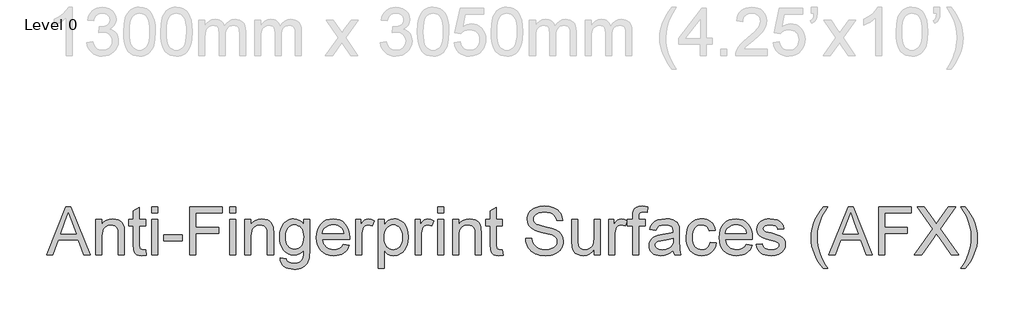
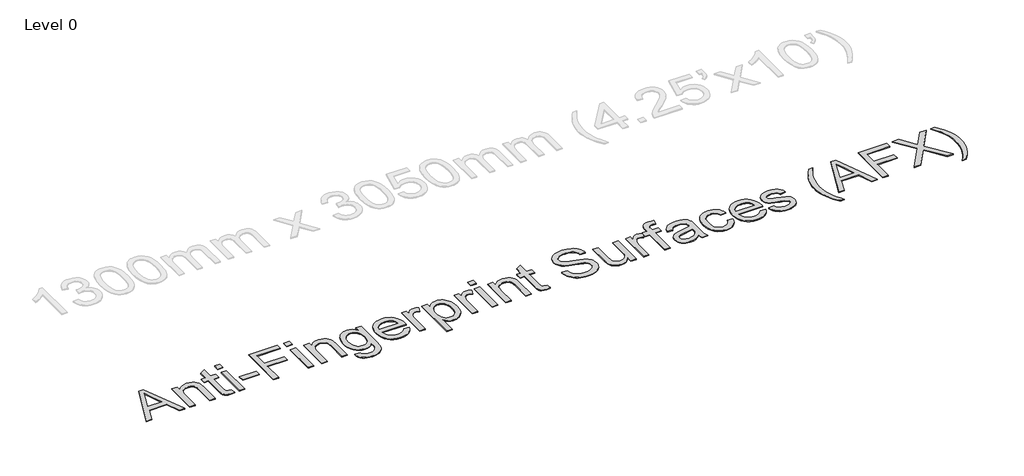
# One storey, part 4 of 10: 1 proxy.
"""IFC4 building model written with IfcOpenShell, lengths in millimetres."""

import ifcopenshell
import ifcopenshell.guid

model = None  # the IFC model being written
_history = None  # IfcOwnerHistory: only IFC2X3 demands one
_inside = {}  # id of a spatial element -> (the spatial element, [elements in it])
_under = {}  # id of a project, library or spatial element -> (it, [spatial elements below it])
_declared = {}  # id of a project -> (the project, [libraries it declares])
_typed = {}  # id of a type object -> (the type object, [elements of that type])
_made_of = {}  # id of a material, layer set ... -> (it, [elements and type objects made of it])


def new_model(schema):
    """Start an empty IFC model of exactly this schema.

    Asked for "IFC4X3", IfcOpenShell would pick the latest addendum, in which some entities
    have other attributes; the version numbers below select the first issue.
    IFC2X3 requires an IfcOwnerHistory on every rooted entity: one is made here for all.
    """
    global model, _history
    if schema == "IFC4X3":
        model = ifcopenshell.file(schema_version=(4, 3, 0, 0))
    else:
        model = ifcopenshell.file(schema=schema)
    _inside.clear()
    _under.clear()
    _declared.clear()
    _typed.clear()
    _made_of.clear()
    _history = None
    if model.schema == "IFC2X3":
        org = make("IfcOrganization", Name="unknown")
        user = make(
            "IfcPersonAndOrganization",
            ThePerson=make("IfcPerson", FamilyName="unknown"),
            TheOrganization=org,
        )
        app = make(
            "IfcApplication",
            ApplicationDeveloper=org,
            Version="unknown",
            ApplicationFullName="unknown",
            ApplicationIdentifier="unknown",
        )
        _history = make(
            "IfcOwnerHistory",
            OwningUser=user,
            OwningApplication=app,
            ChangeAction="ADDED",
            CreationDate=0,
        )
    return model


def make(cls, **values):
    """One entity of the class cls with the attributes given. An attribute that is None is left unset."""
    return model.create_entity(
        cls, **{name: value for name, value in values.items() if value is not None}
    )


def rooted(cls, **values):
    """An entity with a GlobalId (a new one), such as an element, a storey or a relation."""
    return make(cls, GlobalId=ifcopenshell.guid.new(), OwnerHistory=_history, **values)


def si_unit(unit_type, name, prefix=None):
    """IfcSIUnit, for example si_unit("LENGTHUNIT", "METRE", prefix="MILLI")."""
    return make("IfcSIUnit", UnitType=unit_type, Prefix=prefix, Name=name)


def assignment(units):
    """IfcUnitAssignment: the units of a project."""
    return None if units is None else make("IfcUnitAssignment", Units=units)


def point(xyz):
    """IfcCartesianPoint."""
    return None if xyz is None else make("IfcCartesianPoint", Coordinates=xyz)


def direction(xyz):
    """IfcDirection."""
    return None if xyz is None else make("IfcDirection", DirectionRatios=xyz)


def frame(location, z_axis=None, x_axis=None):
    """IfcAxis2Placement3D, a coordinate frame: its origin and axes. An axis left out is left unset."""
    return make(
        "IfcAxis2Placement3D",
        Location=point(location),
        Axis=direction(z_axis),
        RefDirection=direction(x_axis),
    )


def origin():
    """The frame at (0, 0, 0) with its axes left unset."""
    return frame((0.0, 0.0, 0.0))


def origin_with_axes():
    """The frame at (0, 0, 0) with the z axis (0, 0, 1) and the x axis (1, 0, 0) written out."""
    return frame((0.0, 0.0, 0.0), z_axis=(0.0, 0.0, 1.0), x_axis=(1.0, 0.0, 0.0))


def place(relative_to, where):
    """IfcLocalPlacement: puts the frame where relative to a parent placement (None: the world)."""
    return make(
        "IfcLocalPlacement", PlacementRelTo=relative_to, RelativePlacement=where
    )


def context(
    kind, dimensions, precision=None, world=None, true_north=None, identifier=None
):
    """IfcGeometricRepresentationContext, for example the 3D "Model" context."""
    return make(
        "IfcGeometricRepresentationContext",
        ContextIdentifier=identifier,
        ContextType=kind,
        CoordinateSpaceDimension=dimensions,
        Precision=precision,
        WorldCoordinateSystem=world,
        TrueNorth=true_north,
    )


def project(units=None, contexts=None):
    """IfcProject with its units and contexts."""
    return rooted(
        "IfcProject",
        Name="project",
        RepresentationContexts=contexts,
        UnitsInContext=assignment(units),
    )


def spatial(cls, under=None, at=None, **own):
    """A site, building, storey or space (cls), placed at a placement, below another one or the project."""
    s = rooted(cls, ObjectPlacement=at, **own)
    if under is not None:
        _under.setdefault(under.id(), (under, []))[1].append(s)
    return s


def polyline(points):
    """IfcPolyline through the points."""
    return make("IfcPolyline", Points=[point(p) for p in points])


def outline(outer, holes=None, kind="AREA"):
    """IfcArbitraryClosedProfileDef: a profile drawn as a closed curve; with holes, ...WithVoids."""
    if holes is None:
        return make("IfcArbitraryClosedProfileDef", ProfileType=kind, OuterCurve=outer)
    return make(
        "IfcArbitraryProfileDefWithVoids",
        ProfileType=kind,
        OuterCurve=outer,
        InnerCurves=holes,
    )


def extrude(swept, where, along, depth):
    """IfcExtrudedAreaSolid: the profile swept, set in the frame where, extruded along a direction by depth."""
    return make(
        "IfcExtrudedAreaSolid",
        SweptArea=swept,
        Position=where,
        ExtrudedDirection=direction(along),
        Depth=depth,
    )


def shape(context_of_items, identifier, shape_type, items):
    """IfcShapeRepresentation: the items that make up one representation, for example the "Body"."""
    return make(
        "IfcShapeRepresentation",
        ContextOfItems=context_of_items,
        RepresentationIdentifier=identifier,
        RepresentationType=shape_type,
        Items=items,
    )


def made_of(thing, what):
    """Note that an element or type object is made of a material, layer set ...; save() writes the relation."""
    if what is not None:
        _made_of.setdefault(what.id(), (what, []))[1].append(thing)
    return thing


def element(
    cls,
    number,
    at=None,
    inside=None,
    cuts=None,
    type_object=None,
    material=None,
    context=None,
    identifier="Body",
    shape_type=None,
    held_by="IfcProductDefinitionShape",
    body=None,
    shapes=None,
    **own,
):
    """One element of the class cls, such as IfcWall. Its Tag is "e" and its number.

    at: its placement. inside: the storey or other place that contains it. cuts: it is an
    opening in that element (IfcRelVoidsElement). A single representation is given by context,
    identifier, shape_type and body (its items); several are given by shapes. held_by: the class
    of the entity that holds the representations. save() writes the other relations.
    """
    e = rooted(cls, Tag="e%d" % number, ObjectPlacement=at, **own)
    if body is not None:
        shapes = [shape(context, identifier, shape_type, body)]
    if shapes is not None:
        e.Representation = make(held_by, Representations=shapes)
    if inside is not None:
        _inside.setdefault(inside.id(), (inside, []))[1].append(e)
    if cuts is not None:
        rooted(
            "IfcRelVoidsElement", RelatingBuildingElement=cuts, RelatedOpeningElement=e
        )
    if type_object is not None:
        _typed.setdefault(type_object.id(), (type_object, []))[1].append(e)
    return made_of(e, material)


def aggregate(whole, parts):
    """IfcRelAggregates: a whole, such as a stair, and the parts it consists of."""
    return rooted("IfcRelAggregates", RelatingObject=whole, RelatedObjects=parts)


def save(model, path):
    """Write the relations noted so far, then the file.

    IfcRelAggregates (storeys below a building ...), IfcRelContainedInSpatialStructure (elements
    in a storey), IfcRelDefinesByType, IfcRelAssociatesMaterial and IfcRelDeclares: one each for
    every whole, place, type object, material and project.
    """
    for whole, parts in _under.values():
        aggregate(whole, parts)
    for where, things in _inside.values():
        rooted(
            "IfcRelContainedInSpatialStructure",
            RelatedElements=things,
            RelatingStructure=where,
        )
    for kind, things in _typed.values():
        rooted("IfcRelDefinesByType", RelatedObjects=things, RelatingType=kind)
    for what, things in _made_of.values():
        rooted("IfcRelAssociatesMaterial", RelatedObjects=things, RelatingMaterial=what)
    for by, libraries in _declared.values():
        rooted("IfcRelDeclares", RelatingContext=by, RelatedDefinitions=libraries)
    model.write(path)


model = new_model("IFC4")

# Units and contexts
model_context = context("Model", 3, world=origin())
ifc_project = project(units=[si_unit("LENGTHUNIT", "METRE", prefix="MILLI")], contexts=[model_context])

# Site, building, storey
site = spatial("IfcSite", under=ifc_project)
building = spatial("IfcBuilding", under=site)
storey = spatial("IfcBuildingStorey", under=building, Name="Level 0", Elevation=0.0)

# Proxy
placement = place(None, origin())
element("IfcBuildingElementProxy", 1, Name="600mm Arial", ObjectType="600mm Arial", at=placement, inside=storey, context=model_context, shape_type="SweptSolid", body=[
    extrude(outline(polyline([(-10947.6550699, -2239.8720473), (-10707.0602451, -1637.1341864), (-10642.9016251, -1637.1341864), (-10402.3068003, -2239.8720473), (-10481.916464, -2239.8720473), (-10550.9311263, -2051.5164658), (-10799.1778967, -2051.5164658), (-10868.0454062, -2239.8720473), (-10947.6550699, -2239.8720473)]), holes=[polyline([(-10771.5131706, -1976.1742332), (-10578.4486996, -1976.1742332), (-10632.748082, -1827.9913655), (-10674.9809351, -1712.476419), (-10712.5048986, -1815.0419193), (-10771.5131706, -1976.1742332)])]), origin_with_axes(), (0.0, 0.0, 1.0), 10.0),
    extrude(outline(polyline([(-10331.2319988, -2239.8720473), (-10331.2319988, -1797.2364307), (-10255.8897662, -1797.2364307), (-10255.8897662, -1859.0406059), (-10229.7149622, -1827.8810009), (-10198.2794457, -1805.6241402), (-10161.5832167, -1792.2700238), (-10119.6262752, -1787.8186517), (-10082.4885878, -1791.4055011), (-10048.4778973, -1802.1660495), (-10020.1141955, -1818.7575275), (-9999.9174739, -1839.8371658), (-9986.2138696, -1865.3497821), (-9977.3295194, -1895.2401942), (-9973.3563939, -1968.0808293), (-9973.3563939, -2239.8720473), (-10048.6986265, -2239.8720473), (-10048.6986265, -1978.2343724), (-10050.8691303, -1939.2756691), (-10057.3806416, -1911.5741548), (-10069.3919887, -1891.7269212), (-10088.062, -1876.3310597), (-10111.9927238, -1866.4534281), (-10139.7862085, -1863.1608843), (-10162.6638701, -1865.0094913), (-10183.9136538, -1870.5553124), (-10203.5355598, -1879.7983475), (-10221.5295878, -1892.7385967), (-10236.5621659, -1910.8475879), (-10247.2997216, -1935.5968491), (-10253.742255, -1966.9863804), (-10255.8897662, -2005.0161816), (-10255.8897662, -2239.8720473), (-10331.2319988, -2239.8720473)])), origin_with_axes(), (0.0, 0.0, 1.0), 10.0),
    extrude(outline(polyline([(-9709.6585798, -2177.0378026), (-9700.2408007, -2242.0793393), (-9756.6003223, -2249.2898264), (-9792.7631225, -2246.1628294), (-9819.7288727, -2236.7818386), (-9838.7851601, -2222.3240762), (-9851.2195715, -2203.9667646), (-9858.0621766, -2172.4392776), (-9860.343045, -2118.4709889), (-9860.343045, -1872.5786633), (-9916.8497194, -1872.5786633), (-9916.8497194, -1797.2364307), (-9860.343045, -1797.2364307), (-9860.343045, -1689.6677353), (-9785.0008124, -1645.3747431), (-9785.0008124, -1797.2364307), (-9709.6585798, -1797.2364307), (-9709.6585798, -1872.5786633), (-9785.0008124, -1872.5786633), (-9785.0008124, -2116.2636969), (-9781.0276868, -2155.1120356), (-9768.151817, -2168.8708223), (-9757.280904, -2172.6784009), (-9742.4736537, -2173.9475938), (-9709.6585798, -2177.0378026)])), origin_with_axes(), (0.0, 0.0, 1.0), 10.0),
    extrude(outline(polyline([(-9634.3163471, -1712.476419), (-9634.3163471, -1637.1341864), (-9558.9741145, -1637.1341864), (-9558.9741145, -1712.476419), (-9634.3163471, -1712.476419)])), origin_with_axes(), (0.0, 0.0, 1.0), 10.0),
    extrude(outline(polyline([(-9634.3163471, -2239.8720473), (-9634.3163471, -1797.2364307), (-9558.9741145, -1797.2364307), (-9558.9741145, -2239.8720473), (-9634.3163471, -2239.8720473)])), origin_with_axes(), (0.0, 0.0, 1.0), 10.0),
    extrude(outline(polyline([(-9483.6318819, -2060.9342449), (-9483.6318819, -1985.5920123), (-9248.187405, -1985.5920123), (-9248.187405, -2060.9342449), (-9483.6318819, -2060.9342449)])), origin_with_axes(), (0.0, 0.0, 1.0), 10.0),
    extrude(outline(polyline([(-9154.0096142, -2239.8720473), (-9154.0096142, -1637.1341864), (-8749.0451139, -1637.1341864), (-8749.0451139, -1712.476419), (-9078.6673816, -1712.476419), (-9078.6673816, -1891.4142215), (-8796.1340093, -1891.4142215), (-8796.1340093, -1966.7564541), (-9078.6673816, -1966.7564541), (-9078.6673816, -2239.8720473), (-9154.0096142, -2239.8720473)])), origin_with_axes(), (0.0, 0.0, 1.0), 10.0),
    extrude(outline(polyline([(-8654.8673232, -1712.476419), (-8654.8673232, -1637.1341864), (-8579.5250906, -1637.1341864), (-8579.5250906, -1712.476419), (-8654.8673232, -1712.476419)])), origin_with_axes(), (0.0, 0.0, 1.0), 10.0),
    extrude(outline(polyline([(-8654.8673232, -2239.8720473), (-8654.8673232, -1797.2364307), (-8579.5250906, -1797.2364307), (-8579.5250906, -2239.8720473), (-8654.8673232, -2239.8720473)])), origin_with_axes(), (0.0, 0.0, 1.0), 10.0),
    extrude(outline(polyline([(-8466.5117417, -2239.8720473), (-8466.5117417, -1797.2364307), (-8391.169509, -1797.2364307), (-8391.169509, -1859.0406059), (-8364.9947051, -1827.8810009), (-8333.5591886, -1805.6241402), (-8296.8629596, -1792.2700238), (-8254.906018, -1787.8186517), (-8217.7683306, -1791.4055011), (-8183.7576402, -1802.1660495), (-8155.3939383, -1818.7575275), (-8135.1972168, -1839.8371658), (-8121.4936125, -1865.3497821), (-8112.6092623, -1895.2401942), (-8108.6361367, -1968.0808293), (-8108.6361367, -2239.8720473), (-8183.9783694, -2239.8720473), (-8183.9783694, -1978.2343724), (-8186.1488731, -1939.2756691), (-8192.6603844, -1911.5741548), (-8204.6717316, -1891.7269212), (-8223.3417428, -1876.3310597), (-8247.2724666, -1866.4534281), (-8275.0659514, -1863.1608843), (-8297.9436129, -1865.0094913), (-8319.1933967, -1870.5553124), (-8338.8153026, -1879.7983475), (-8356.8093307, -1892.7385967), (-8371.8419087, -1910.8475879), (-8382.5794645, -1935.5968491), (-8389.0219979, -1966.9863804), (-8391.169509, -2005.0161816), (-8391.169509, -2239.8720473), (-8466.5117417, -2239.8720473)])), origin_with_axes(), (0.0, 0.0, 1.0), 10.0),
    extrude(outline(polyline([(-8023.8761251, -2277.5431636), (-7948.5338924, -2286.9609427), (-7940.2197594, -2310.5053904), (-7924.106528, -2326.6921982), (-7892.4318882, -2339.2737624), (-7850.9715873, -2343.4676172), (-7806.7521715, -2338.7219394), (-7788.8915006, -2332.7898423), (-7773.8635211, -2324.4849062), (-7751.0548374, -2301.6762225), (-7737.0753216, -2271.2155933), (-7732.9918315, -2238.8051895), (-7731.9249737, -2183.3653729), (-7756.9961317, -2208.0870429), (-7784.9735574, -2225.7453787), (-7815.8572509, -2236.3403802), (-7849.6472121, -2239.8720473), (-7890.9557617, -2235.760966), (-7927.3254954, -2223.4277221), (-7958.7564134, -2202.8723157), (-7985.2485156, -2174.0947466), (-8006.2683731, -2139.5690213), (-8021.282557, -2101.7691463), (-8030.2910673, -2060.6951216), (-8033.2939041, -2016.3469471), (-8027.9044329, -1955.5176592), (-8011.7360192, -1899.5812018), (-7999.7522632, -1874.3582925), (-7985.3588802, -1852.1796067), (-7968.55587, -1833.0451444), (-7949.3432328, -1816.9549057), (-7928.0290697, -1804.2077945), (-7904.9214819, -1795.1027152), (-7880.0204694, -1789.6396675), (-7853.3260321, -1787.8186517), (-7818.092134, -1791.93893), (-7786.1139916, -1804.299765), (-7757.3916048, -1824.9011568), (-7731.9249737, -1853.7431052), (-7731.9249737, -1797.2364307), (-7656.5827411, -1797.2364307), (-7656.5827411, -2179.3922473), (-7661.733089, -2267.6287439), (-7668.1710239, -2300.4484164), (-7677.1841328, -2325.735705), (-7688.9885463, -2346.1301631), (-7703.8003952, -2364.271344), (-7721.6196793, -2380.1592477), (-7742.4463987, -2393.7938741), (-7766.0690214, -2404.7383635), (-7792.276015, -2412.5558559), (-7821.0673796, -2417.2463513), (-7852.4431153, -2418.8098498), (-7889.355475, -2416.6071563), (-7922.5430295, -2409.999076), (-7952.0057788, -2398.9856088), (-7977.7437229, -2383.5667546), (-7998.5336541, -2363.7241195), (-8013.1523649, -2339.4393093), (-8021.5998552, -2310.712324), (-8023.8761251, -2277.5431636)]), holes=[polyline([(-7957.9516715, -2011.1965991), (-7955.9421161, -2048.4492497), (-7949.9134499, -2080.3032319), (-7939.8656729, -2106.7585459), (-7925.7987851, -2127.8151916), (-7908.6968709, -2143.8778392), (-7889.5440145, -2155.3511589), (-7868.340216, -2162.2351508), (-7845.0854754, -2164.5298147), (-7822.060661, -2162.2489463), (-7800.9580301, -2155.4063412), (-7781.7775826, -2144.0019994), (-7764.5193185, -2128.0359208), (-7750.2592926, -2107.1862087), (-7740.0735599, -2081.1309664), (-7733.9621202, -2049.8701939), (-7731.9249737, -2013.4038911), (-7734.0219011, -1978.4597001), (-7740.3126832, -1948.0864429), (-7750.79732, -1922.2841194), (-7765.4758116, -1901.0527298), (-7783.1065563, -1884.4750474), (-7802.4479522, -1872.6338456), (-7823.4999993, -1865.5291246), (-7846.2626978, -1863.1608843), (-7868.6437187, -1865.4923364), (-7889.2864971, -1872.4866928), (-7908.1910331, -1884.1439536), (-7925.3573267, -1900.4641186), (-7939.6173526, -1921.3736115), (-7949.8030853, -1946.7988559), (-7955.914525, -1976.7398518), (-7957.9516715, -2011.1965991)])]), origin_with_axes(), (0.0, 0.0, 1.0), 10.0),
    extrude(outline(polyline([(-7233.6655994, -2108.0231403), (-7159.7948948, -2117.4409193), (-7171.1210617, -2147.0278288), (-7186.4111571, -2173.1014652), (-7205.6651811, -2195.6618286), (-7228.8831335, -2214.7089189), (-7255.8258911, -2229.8380659), (-7286.2543306, -2240.6445995), (-7320.1684521, -2247.1285197), (-7357.5682554, -2249.2898264), (-7404.3168599, -2245.5604227), (-7445.9702988, -2234.3722115), (-7482.5285721, -2215.7251929), (-7513.9916797, -2189.6193668), (-7539.292764, -2156.7813002), (-7557.364967, -2117.93756), (-7568.2082888, -2073.0881463), (-7571.8227294, -2022.233059), (-7568.1715006, -1969.6535248), (-7557.2178142, -1923.3095905), (-7538.9616702, -1883.201256), (-7513.4030685, -1849.3285212), (-7482.0227344, -1822.4179533), (-7446.3013926, -1803.1961191), (-7406.2390434, -1791.6630185), (-7361.8356865, -1787.8186517), (-7318.862471, -1791.6538215), (-7280.0003367, -1803.1593309), (-7245.2492837, -1822.3351799), (-7214.6093121, -1849.1813685), (-7189.5979349, -1882.9805268), (-7171.7326655, -1923.0152849), (-7161.0135039, -1969.2856428), (-7157.44045, -2021.7916006), (-7157.8819084, -2042.0986867), (-7496.4804968, -2042.0986867), (-7492.1164966, -2072.1638428), (-7483.43908, -2098.4949966), (-7470.4482471, -2121.0921481), (-7453.1439977, -2139.9552974), (-7432.4828252, -2154.8269271), (-7409.4212226, -2165.4495197), (-7383.95919, -2171.8230753), (-7356.0967274, -2173.9475938), (-7315.9975899, -2170.0112564), (-7282.2260228, -2158.2022444), (-7254.7820259, -2137.7847937), (-7233.6655994, -2108.0231403)]), holes=[polyline([(-7496.4804968, -1966.7564541), (-7232.7826826, -1966.7564541), (-7242.9730139, -1926.9516222), (-7251.7378024, -1911.2982433), (-7262.9490062, -1898.4775558), (-7283.4952157, -1883.026512), (-7306.8741165, -1871.9900522), (-7333.0857086, -1865.3681762), (-7362.1299921, -1863.1608843), (-7388.6220943, -1864.9221193), (-7412.9161016, -1870.2058245), (-7435.0120139, -1879.0119997), (-7454.9098313, -1891.3406451), (-7471.6070754, -1906.6215435), (-7484.1012676, -1924.2844778), (-7492.3924081, -1944.329448), (-7496.4804968, -1966.7564541)])]), origin_with_axes(), (0.0, 0.0, 1.0), 10.0),
    extrude(outline(polyline([(-7082.0982174, -2239.8720473), (-7082.0982174, -1797.2364307), (-7016.1737639, -1797.2364307), (-7016.1737639, -1862.7194259), (-6991.8199758, -1824.754004), (-6969.3791741, -1802.3867787), (-6946.864796, -1791.4606834), (-6922.2902787, -1787.8186517), (-6884.7663152, -1793.6311872), (-6846.6537405, -1811.0687938), (-6871.816869, -1878.6119281), (-6898.3043726, -1867.0236452), (-6924.7918763, -1863.1608843), (-6947.2878603, -1866.8764924), (-6967.3926113, -1878.0233169), (-6983.6346014, -1895.755229), (-6994.5423025, -1919.2261003), (-7003.7025642, -1961.3118006), (-7006.7559848, -2007.2234736), (-7006.7559848, -2239.8720473), (-7082.0982174, -2239.8720473)])), origin_with_axes(), (0.0, 0.0, 1.0), 10.0),
    extrude(outline(polyline([(-6799.5648451, -2409.3920707), (-6799.5648451, -1797.2364307), (-6724.2226125, -1797.2364307), (-6724.2226125, -1871.1071354), (-6699.6480952, -1834.6684237), (-6672.130522, -1808.6407726), (-6640.051212, -1793.0241819), (-6601.7914845, -1787.8186517), (-6575.515513, -1789.6396675), (-6550.8398282, -1795.1027152), (-6527.76443, -1804.2077945), (-6506.2893186, -1816.9549057), (-6486.8835433, -1833.0129548), (-6470.0161538, -1852.050848), (-6455.6871501, -1874.0685854), (-6443.8965322, -1899.066167), (-6428.1143946, -1954.5795601), (-6422.853682, -2015.1697247), (-6428.7949763, -2079.6042561), (-6436.221594, -2109.2693405), (-6446.6188589, -2137.2329707), (-6459.8442167, -2162.7639811), (-6475.755113, -2185.1312064), (-6494.3515478, -2204.3346466), (-6515.6335212, -2220.3743016), (-6538.5571681, -2233.0248437), (-6562.0786231, -2242.0609452), (-6586.1978864, -2247.4826061), (-6610.914958, -2249.2898264), (-6645.5510478, -2244.4521782), (-6676.4715295, -2229.9392335), (-6702.9406391, -2208.0318606), (-6724.2226125, -2181.0109281), (-6724.2226125, -2409.3920707), (-6799.5648451, -2409.3920707)]), holes=[polyline([(-6724.2226125, -2022.0859062), (-6722.1854659, -2058.3958591), (-6716.0740263, -2089.6290405), (-6705.8882936, -2115.7854504), (-6691.6282677, -2136.8650887), (-6674.4619741, -2153.0886847), (-6655.5574381, -2164.6769675), (-6634.9146596, -2171.6299372), (-6612.5336388, -2173.9475938), (-6589.8307211, -2171.5471638), (-6568.8108636, -2164.3458737), (-6549.4740663, -2152.3437236), (-6531.820329, -2135.5407135), (-6517.1096477, -2113.69772), (-6506.6020182, -2086.5756199), (-6500.2974406, -2054.1744132), (-6498.1959147, -2016.4940999), (-6500.2468568, -1980.4968466), (-6506.3996831, -1949.3188475), (-6516.6543938, -1922.9601026), (-6531.0109886, -1901.4206118), (-6548.218669, -1884.681981), (-6567.026636, -1872.7258161), (-6587.4348896, -1865.5521172), (-6609.44343, -1863.1608843), (-6631.3829925, -1865.7038686), (-6652.0257709, -1873.3328214), (-6671.3717654, -1886.0477429), (-6689.4209757, -1903.8486329), (-6704.6466918, -1926.4963683), (-6715.5222033, -1953.7518256), (-6722.0475102, -1985.6150049), (-6724.2226125, -2022.0859062)])]), origin_with_axes(), (0.0, 0.0, 1.0), 10.0),
    extrude(outline(polyline([(-6338.0936704, -2239.8720473), (-6338.0936704, -1797.2364307), (-6272.1692168, -1797.2364307), (-6272.1692168, -1862.7194259), (-6247.8154287, -1824.754004), (-6225.374627, -1802.3867787), (-6202.8602489, -1791.4606834), (-6178.2857317, -1787.8186517), (-6140.7617681, -1793.6311872), (-6102.6491934, -1811.0687938), (-6127.8123219, -1878.6119281), (-6154.2998256, -1867.0236452), (-6180.7873292, -1863.1608843), (-6203.2833132, -1866.8764924), (-6223.3880643, -1878.0233169), (-6239.6300543, -1895.755229), (-6250.5377555, -1919.2261003), (-6259.6980172, -1961.3118006), (-6262.7514377, -2007.2234736), (-6262.7514377, -2239.8720473), (-6338.0936704, -2239.8720473)])), origin_with_axes(), (0.0, 0.0, 1.0), 10.0),
    extrude(outline(polyline([(-6055.5602981, -1712.476419), (-6055.5602981, -1637.1341864), (-5980.2180654, -1637.1341864), (-5980.2180654, -1712.476419), (-6055.5602981, -1712.476419)])), origin_with_axes(), (0.0, 0.0, 1.0), 10.0),
    extrude(outline(polyline([(-6055.5602981, -2239.8720473), (-6055.5602981, -1797.2364307), (-5980.2180654, -1797.2364307), (-5980.2180654, -2239.8720473), (-6055.5602981, -2239.8720473)])), origin_with_axes(), (0.0, 0.0, 1.0), 10.0),
    extrude(outline(polyline([(-5867.2047165, -2239.8720473), (-5867.2047165, -1797.2364307), (-5791.8624839, -1797.2364307), (-5791.8624839, -1859.0406059), (-5765.68768, -1827.8810009), (-5734.2521635, -1805.6241402), (-5697.5559345, -1792.2700238), (-5655.5989929, -1787.8186517), (-5618.4613055, -1791.4055011), (-5584.450615, -1802.1660495), (-5556.0869132, -1818.7575275), (-5535.8901917, -1839.8371658), (-5522.1865874, -1865.3497821), (-5513.3022372, -1895.2401942), (-5509.3291116, -1968.0808293), (-5509.3291116, -2239.8720473), (-5584.6713442, -2239.8720473), (-5584.6713442, -1978.2343724), (-5586.841848, -1939.2756691), (-5593.3533593, -1911.5741548), (-5605.3647065, -1891.7269212), (-5624.0347177, -1876.3310597), (-5647.9654415, -1866.4534281), (-5675.7589262, -1863.1608843), (-5698.6365878, -1865.0094913), (-5719.8863716, -1870.5553124), (-5739.5082775, -1879.7983475), (-5757.5023056, -1892.7385967), (-5772.5348836, -1910.8475879), (-5783.2724393, -1935.5968491), (-5789.7149728, -1966.9863804), (-5791.8624839, -2005.0161816), (-5791.8624839, -2239.8720473), (-5867.2047165, -2239.8720473)])), origin_with_axes(), (0.0, 0.0, 1.0), 10.0),
    extrude(outline(polyline([(-5245.6312975, -2177.0378026), (-5236.2135184, -2242.0793393), (-5292.5730401, -2249.2898264), (-5328.7358402, -2246.1628294), (-5355.7015904, -2236.7818386), (-5374.7578778, -2222.3240762), (-5387.1922892, -2203.9667646), (-5394.0348943, -2172.4392776), (-5396.3157627, -2118.4709889), (-5396.3157627, -1872.5786633), (-5452.8224372, -1872.5786633), (-5452.8224372, -1797.2364307), (-5396.3157627, -1797.2364307), (-5396.3157627, -1689.6677353), (-5320.9735301, -1645.3747431), (-5320.9735301, -1797.2364307), (-5245.6312975, -1797.2364307), (-5245.6312975, -1872.5786633), (-5320.9735301, -1872.5786633), (-5320.9735301, -2116.2636969), (-5317.0004045, -2155.1120356), (-5304.1245347, -2168.8708223), (-5293.2536218, -2172.6784009), (-5278.4463714, -2173.9475938), (-5245.6312975, -2177.0378026)])), origin_with_axes(), (0.0, 0.0, 1.0), 10.0),
    extrude(outline(polyline([(-4953.6801461, -2032.6809076), (-4878.3379135, -2032.6809076), (-4869.6926866, -2074.4906964), (-4854.0577018, -2108.0967167), (-4829.6671255, -2134.7681613), (-4794.7551242, -2155.7742232), (-4752.0808127, -2169.4042512), (-4704.4033062, -2173.9475938), (-4662.4279705, -2170.5078971), (-4625.6765592, -2160.1888072), (-4595.8965117, -2143.8548466), (-4574.8352675, -2122.3705381), (-4562.3088855, -2097.7040503), (-4558.1334249, -2071.8235519), (-4561.2604219, -2046.6052412), (-4570.6414127, -2024.8082329), (-4589.6977001, -2006.2117981), (-4621.8505865, -1990.5952074), (-4731.5529974, -1961.8268354), (-4803.565898, -1942.7889421), (-4849.6431179, -1924.6707539), (-4887.1486873, -1899.3236844), (-4913.7281614, -1868.6055378), (-4929.5654813, -1833.1785017), (-4934.844588, -1793.7047636), (-4933.2121116, -1771.2685604), (-4928.3146825, -1749.5773183), (-4920.1523008, -1728.6310372), (-4908.7249663, -1708.4297171), (-4894.1614378, -1689.796494), (-4876.590474, -1673.554504), (-4856.0120749, -1659.7037468), (-4832.4262405, -1648.2442227), (-4779.414445, -1632.8483612), (-4720.7372668, -1627.7164074), (-4657.167258, -1633.0874845), (-4601.5435003, -1649.2007159), (-4577.2081063, -1661.202866), (-4555.8525565, -1675.7250077), (-4537.4768509, -1692.7671412), (-4522.0809894, -1712.3292662), (-4509.7845337, -1733.8411659), (-4500.7070454, -1756.7326231), (-4494.8485247, -1781.0036377), (-4492.2089714, -1806.6542098), (-4567.551204, -1806.6542098), (-4572.5911873, -1782.6131214), (-4581.383567, -1761.69903), (-4593.928343, -1743.9119355), (-4610.2255154, -1729.251838), (-4630.5785868, -1717.7923139), (-4655.2910598, -1709.6069395), (-4684.3629345, -1704.6957148), (-4717.7942108, -1703.05864), (-4752.2923449, -1704.6773207), (-4781.7688898, -1709.5333631), (-4806.2238454, -1717.626767), (-4825.6572118, -1728.9575324), (-4840.4644621, -1742.5783633), (-4851.0410695, -1757.5419635), (-4857.3870339, -1773.8483329), (-4859.5023553, -1791.4974716), (-4858.0032362, -1806.681801), (-4853.5058788, -1820.4497846), (-4846.0102832, -1832.8014226), (-4835.5164493, -1843.7367149), (-4818.9985477, -1854.0925931), (-4792.9892906, -1864.5588358), (-4712.4967101, -1885.8224152), (-4629.4289556, -1906.0191367), (-4579.176275, -1923.6406843), (-4536.2260521, -1950.9743165), (-4519.6207785, -1967.0415627), (-4506.2620636, -1984.7090955), (-4495.9935574, -2003.8849445), (-4488.6589101, -2024.4771392), (-4482.7911923, -2069.9105656), (-4484.4788509, -2093.4780059), (-4489.5418269, -2116.3556674), (-4497.9801202, -2138.5435503), (-4509.7937307, -2160.0416544), (-4524.775725, -2180.0176467), (-4542.7191693, -2197.6391943), (-4563.6240637, -2212.9062971), (-4587.4904081, -2225.8189551), (-4613.6238253, -2236.0874613), (-4641.3299381, -2243.4221086), (-4701.4602502, -2249.2898264), (-4740.0004877, -2247.7079338), (-4775.2757725, -2242.9622561), (-4807.2861047, -2235.0527932), (-4836.031484, -2223.9795451), (-4861.6866547, -2209.7241178), (-4884.4263605, -2192.2681172), (-4904.2506015, -2171.6115431), (-4921.1593777, -2147.7543957), (-4934.7802086, -2121.4692272), (-4944.7406136, -2093.5285896), (-4951.0405928, -2063.9324831), (-4953.6801461, -2032.6809076)])), origin_with_axes(), (0.0, 0.0, 1.0), 10.0),
    extrude(outline(polyline([(-4096.6622501, -2239.8720473), (-4096.6622501, -2163.7940507), (-4123.922306, -2201.1984526), (-4155.6705222, -2227.9158825), (-4191.9068987, -2243.9463404), (-4232.6314356, -2249.2898264), (-4269.3276646, -2245.5374301), (-4303.4855078, -2234.280241), (-4332.1435153, -2217.3576692), (-4352.3402368, -2196.6091247), (-4365.9334765, -2171.409208), (-4374.7810385, -2141.1325198), (-4379.1956224, -2071.0877879), (-4379.1956224, -1797.2364307), (-4303.8533898, -1797.2364307), (-4303.8533898, -2035.6239636), (-4302.7129556, -2083.3014702), (-4299.2916531, -2112.4377242), (-4288.3103755, -2138.0607052), (-4269.4932115, -2157.5400568), (-4244.0909597, -2169.8457095), (-4213.354419, -2173.9475938), (-4180.8520447, -2169.753739), (-4150.4465978, -2157.1721748), (-4125.3754399, -2137.3617294), (-4108.8759324, -2111.481231), (-4099.7156707, -2076.0358008), (-4096.6622501, -2027.5305597), (-4096.6622501, -1797.2364307), (-4021.3200175, -1797.2364307), (-4021.3200175, -2239.8720473), (-4096.6622501, -2239.8720473)])), origin_with_axes(), (0.0, 0.0, 1.0), 10.0),
    extrude(outline(polyline([(-3616.3555172, -2239.8720473), (-3616.3555172, -1872.5786633), (-3682.2799708, -1872.5786633), (-3682.2799708, -1811.0687938), (-3682.2799708, -1797.2364307), (-3616.3555172, -1797.2364307), (-3616.3555172, -1752.6491329), (-3614.3689545, -1715.7505688), (-3608.4092661, -1689.8148881), (-3593.2525279, -1664.7621243), (-3569.855233, -1644.9332847), (-3537.1137355, -1632.0206267), (-3493.9243892, -1627.7164074), (-3461.2196799, -1629.7765465), (-3425.2040325, -1635.956964), (-3436.2404924, -1706.5903071), (-3479.6505678, -1703.05864), (-3508.2901812, -1706.1856369), (-3527.1073452, -1715.5666278), (-3537.5367998, -1733.482481), (-3541.0132846, -1762.2140648), (-3541.0132846, -1797.2364307), (-3456.2532729, -1797.2364307), (-3456.2532729, -1872.5786633), (-3541.0132846, -1872.5786633), (-3541.0132846, -2239.8720473), (-3616.3555172, -2239.8720473)])), origin_with_axes(), (0.0, 0.0, 1.0), 10.0),
    extrude(outline(polyline([(-3917.7244477, -2239.8720473), (-3917.7244477, -1797.2364307), (-3851.7999942, -1797.2364307), (-3851.7999942, -1862.7194259), (-3827.4462061, -1824.754004), (-3805.0054044, -1802.3867787), (-3782.4910263, -1791.4606834), (-3757.916509, -1787.8186517), (-3720.3925455, -1793.6311872), (-3682.2799708, -1811.0687938), (-3707.4430992, -1878.6119281), (-3733.9306029, -1867.0236452), (-3760.4181066, -1863.1608843), (-3782.9140906, -1866.8764924), (-3803.0188416, -1878.0233169), (-3819.2608317, -1895.755229), (-3830.1685328, -1919.2261003), (-3839.3287945, -1961.3118006), (-3842.3822151, -2007.2234736), (-3842.3822151, -2239.8720473), (-3917.7244477, -2239.8720473)])), origin_with_axes(), (0.0, 0.0, 1.0), 10.0),
    extrude(outline(polyline([(-3107.7954471, -2183.3653729), (-3143.7927003, -2214.2306723), (-3180.8568113, -2234.4273938), (-3219.8339087, -2245.5742183), (-3261.5701211, -2249.2898264), (-3295.1163605, -2247.0549433), (-3324.5331246, -2240.3502939), (-3349.8204132, -2229.1758783), (-3370.9782265, -2213.5316965), (-3387.6846676, -2194.4110298), (-3399.6178398, -2172.8071596), (-3406.7777431, -2148.720086), (-3409.1643776, -2122.1498089), (-3405.559134, -2090.9166275), (-3394.7434033, -2062.5529257), (-3378.0599549, -2038.272714), (-3356.8515578, -2019.290003), (-3331.9275527, -2004.9426052), (-3304.0972797, -1994.5683329), (-3238.9085902, -1983.2375675), (-3161.8741004, -1971.3181908), (-3108.2369055, -1957.338675), (-3107.7954471, -1940.5632561), (-3112.9825832, -1906.9388417), (-3119.4665034, -1894.4860362), (-3128.5439916, -1884.9394984), (-3144.2341587, -1875.4113547), (-3163.3456284, -1868.6055378), (-3211.8324753, -1863.1608843), (-3256.7140788, -1866.7845219), (-3288.0576247, -1877.6554349), (-3309.4315687, -1897.7601859), (-3324.4043659, -1929.0853378), (-3399.7465985, -1919.6675587), (-3386.6683936, -1878.4647753), (-3367.1522537, -1846.0911597), (-3339.3771631, -1821.3327014), (-3301.5221058, -1802.9753899), (-3255.2241567, -1791.6078362), (-3202.1203907, -1787.8186517), (-3151.1871284, -1791.1663778), (-3110.8120795, -1801.2095563), (-3080.3698444, -1816.3111122), (-3059.2350237, -1834.8339706), (-3045.2187197, -1857.7346248), (-3036.1320344, -1885.969568), (-3032.4532145, -1951.8940215), (-3032.4532145, -2045.6303539), (-3028.6272417, -2176.5227678), (-3022.961859, -2208.8779892), (-3013.6176563, -2239.8720473), (-3088.959889, -2239.8720473), (-3101.0264184, -2213.6788493), (-3107.7954471, -2183.3653729)]), holes=[polyline([(-3107.7954471, -2032.6809076), (-3158.4160096, -2045.2256837), (-3229.3436583, -2055.7838969), (-3294.1644659, -2067.9975792), (-3311.0318553, -2076.3485005), (-3323.5214491, -2087.8632069), (-3331.246971, -2101.6587817), (-3333.8221449, -2116.8523081), (-3328.2119445, -2139.2563216), (-3311.3813432, -2157.6136332), (-3283.6982231, -2169.8641036), (-3245.5304661, -2173.9475938), (-3205.0634466, -2169.4410394), (-3169.3053167, -2155.921376), (-3140.3162155, -2136.000566), (-3120.1562821, -2112.2905714), (-3111.2167497, -2087.8632069), (-3108.2369055, -2054.0180634), (-3107.7954471, -2032.6809076)])]), origin_with_axes(), (0.0, 0.0, 1.0), 10.0),
    extrude(outline(polyline([(-2646.3242724, -2079.769803), (-2570.9820397, -2089.1875821), (-2579.1766112, -2124.7387784), (-2591.9881017, -2156.1972875), (-2609.4165112, -2183.5631094), (-2631.4618398, -2206.8362442), (-2657.1951853, -2225.4096864), (-2685.6876458, -2238.6764308), (-2716.9392213, -2246.6364775), (-2750.9499118, -2249.2898264), (-2793.2057575, -2245.5880138), (-2831.0930044, -2234.4825761), (-2864.6116527, -2215.9735132), (-2893.7617023, -2190.0608252), (-2917.3567338, -2157.2319556), (-2934.2103277, -2117.9743482), (-2944.322484, -2072.288003), (-2947.6932028, -2020.1729198), (-2941.9358496, -1953.1264262), (-2934.7391581, -1922.9555041), (-2924.6637899, -1895.0194651), (-2911.6407673, -1869.8793292), (-2895.6011123, -1848.0961166), (-2876.5448249, -1829.6698271), (-2854.4719052, -1814.6004609), (-2830.3802331, -1802.8834194), (-2805.2676884, -1794.514104), (-2779.1342711, -1789.4925147), (-2751.9799814, -1787.8186517), (-2718.5533036, -1790.1179141), (-2688.3180021, -1797.0157015), (-2661.2740769, -1808.5120139), (-2637.4215281, -1824.6068512), (-2617.1650257, -1844.9323314), (-2600.9092401, -1869.1205726), (-2588.6541711, -1897.1715747), (-2580.3998188, -1929.0853378), (-2655.7420514, -1938.5031169), (-2669.4088676, -1905.6328606), (-2690.690841, -1882.0700188), (-2718.4107493, -1867.8881679), (-2751.3913702, -1863.1608843), (-2776.9913585, -1865.4877379), (-2800.0805522, -1872.4682987), (-2820.6589513, -1884.1025668), (-2838.7265558, -1900.3905422), (-2853.4372371, -1921.7093038), (-2863.9448666, -1948.4359307), (-2870.2494443, -1980.570423), (-2872.3509702, -2018.1127806), (-2870.2954295, -2056.2207568), (-2864.1288076, -2088.7277296), (-2853.8511044, -2115.633699), (-2839.4623198, -2136.9386651), (-2821.7534003, -2153.1300714), (-2801.515292, -2164.6953616), (-2778.747995, -2171.6345357), (-2753.4515094, -2173.9475938), (-2714.4376238, -2168.1718465), (-2697.5656358, -2160.9521623), (-2682.4502843, -2150.8446045), (-2669.5146336, -2137.7388084), (-2659.1817481, -2121.5244095), (-2651.4516277, -2102.2014077), (-2646.3242724, -2079.769803)])), origin_with_axes(), (0.0, 0.0, 1.0), 10.0),
    extrude(outline(polyline([(-2195.1537935, -2108.0231403), (-2121.2830888, -2117.4409193), (-2132.6092558, -2147.0278288), (-2147.8993512, -2173.1014652), (-2167.1533751, -2195.6618286), (-2190.3713275, -2214.7089189), (-2217.3140852, -2229.8380659), (-2247.7425247, -2240.6445995), (-2281.6566461, -2247.1285197), (-2319.0564494, -2249.2898264), (-2365.805054, -2245.5604227), (-2407.4584929, -2234.3722115), (-2444.0167662, -2215.7251929), (-2475.4798738, -2189.6193668), (-2500.780958, -2156.7813002), (-2518.853161, -2117.93756), (-2529.6964828, -2073.0881463), (-2533.3109234, -2022.233059), (-2529.6596946, -1969.6535248), (-2518.7060082, -1923.3095905), (-2500.4498642, -1883.201256), (-2474.8912626, -1849.3285212), (-2443.5109284, -1822.4179533), (-2407.7895867, -1803.1961191), (-2367.7272374, -1791.6630185), (-2323.3238806, -1787.8186517), (-2280.350665, -1791.6538215), (-2241.4885308, -1803.1593309), (-2206.7374778, -1822.3351799), (-2176.0975061, -1849.1813685), (-2151.086129, -1882.9805268), (-2133.2208596, -1923.0152849), (-2122.501698, -1969.2856428), (-2118.9286441, -2021.7916006), (-2119.3701025, -2042.0986867), (-2457.9686908, -2042.0986867), (-2453.6046907, -2072.1638428), (-2444.9272741, -2098.4949966), (-2431.9364411, -2121.0921481), (-2414.6321918, -2139.9552974), (-2393.9710192, -2154.8269271), (-2370.9094167, -2165.4495197), (-2345.4473841, -2171.8230753), (-2317.5849215, -2173.9475938), (-2277.485784, -2170.0112564), (-2243.7142168, -2158.2022444), (-2216.27022, -2137.7847937), (-2195.1537935, -2108.0231403)]), holes=[polyline([(-2457.9686908, -1966.7564541), (-2194.2708767, -1966.7564541), (-2204.461208, -1926.9516222), (-2213.2259965, -1911.2982433), (-2224.4372003, -1898.4775558), (-2244.9834097, -1883.026512), (-2268.3623105, -1871.9900522), (-2294.5739027, -1865.3681762), (-2323.6181862, -1863.1608843), (-2350.1102884, -1864.9221193), (-2374.4042956, -1870.2058245), (-2396.500208, -1879.0119997), (-2416.3980254, -1891.3406451), (-2433.0952694, -1906.6215435), (-2445.5894617, -1924.2844778), (-2453.8806022, -1944.329448), (-2457.9686908, -1966.7564541)])]), origin_with_axes(), (0.0, 0.0, 1.0), 10.0),
    extrude(outline(polyline([(-2071.8397487, -2108.0231403), (-1996.4975161, -2098.6053612), (-1991.9449764, -2115.7854504), (-1984.6149276, -2130.831824), (-1974.5073698, -2143.744482), (-1961.6223029, -2154.5234244), (-1945.9229388, -2163.0214985), (-1927.3724892, -2169.0915515), (-1881.7183336, -2173.9475938), (-1836.616001, -2169.4962217), (-1819.0864239, -2163.9320065), (-1804.904573, -2156.1421052), (-1786.1425912, -2136.7915123), (-1781.4520958, -2125.9573875), (-1779.8885973, -2114.3507106), (-1781.4612928, -2104.1787734), (-1786.1793794, -2095.1472704), (-1805.0517258, -2080.505567), (-1833.2682748, -2070.9406351), (-1882.6012504, -2059.0212585), (-1951.3583953, -2039.1372367), (-1996.0560577, -2022.1594826), (-2024.7692474, -2003.6366241), (-2045.5729742, -1979.1172891), (-2058.2097208, -1950.1649761), (-2062.4219696, -1918.3431835), (-2059.0374553, -1889.1517472), (-2048.8839122, -1862.2043911), (-2032.8810454, -1838.5679729), (-2011.9485599, -1819.3093504), (-1991.144833, -1807.1876387), (-1964.0503241, -1797.0157015), (-1932.7251722, -1790.1179141), (-1899.2295166, -1787.8186517), (-1850.1908466, -1791.5158657), (-1807.5533234, -1802.6075079), (-1773.2667214, -1820.0083262), (-1749.2808153, -1842.6330689), (-1733.3883131, -1872.155599), (-1723.3819229, -1910.2497797), (-1798.7241555, -1919.6675587), (-1808.233905, -1895.9575641), (-1827.0510691, -1878.0968933), (-1855.3595886, -1866.8948865), (-1893.3434046, -1863.1608843), (-1936.6063273, -1866.7293396), (-1965.4482757, -1877.4347057), (-1981.6718717, -1892.8857495), (-1987.079737, -1910.691238), (-1984.8356568, -1922.2795209), (-1978.1034163, -1932.617005), (-1966.5887099, -1941.850843), (-1949.9972319, -1949.2452711), (-1885.1028479, -1965.2849261), (-1774.5175202, -2000.7487505), (-1745.3076898, -2017.7081104), (-1723.1611937, -2040.9214643), (-1709.2000719, -2070.4623885), (-1704.5463647, -2106.4044595), (-1710.0094123, -2143.560541), (-1726.3985552, -2178.5093305), (-1753.088394, -2208.5101072), (-1789.4535292, -2230.8221502), (-1833.3786394, -2244.6729074), (-1882.7484032, -2249.2898264), (-1923.2981961, -2247.0641403), (-1958.7160352, -2240.3870821), (-1989.0019204, -2229.2586518), (-2014.1558518, -2213.6788493), (-2034.7020613, -2193.721251), (-2051.1647806, -2169.4594335), (-2063.5440097, -2140.8933965), (-2071.8397487, -2108.0231403)])), origin_with_axes(), (0.0, 0.0, 1.0), 10.0),
    extrude(outline(polyline([(-1233.6574109, -2409.3920707), (-1264.0720548, -2370.0378943), (-1292.0402835, -2327.4647504), (-1317.5620969, -2281.672639), (-1340.6374951, -2232.6615602), (-1359.7581618, -2181.5811452), (-1373.4157808, -2129.5810252), (-1381.6103523, -2076.6612002), (-1384.3418761, -2022.8216702), (-1382.300131, -1975.5028485), (-1376.1748958, -1929.1957024), (-1365.9661704, -1883.9002317), (-1351.6739549, -1839.6164366), (-1329.9505231, -1788.8303271), (-1303.0399552, -1738.1545823), (-1270.9422511, -1687.5892021), (-1233.6574109, -1637.1341864), (-1177.1507364, -1637.1341864), (-1221.4805168, -1708.7608109), (-1247.6369267, -1756.4751057), (-1271.6964092, -1813.1289329), (-1290.0169325, -1872.137205), (-1304.2539658, -1947.5162258), (-1308.9996435, -2023.2631286), (-1306.9395043, -2071.561436), (-1300.7590868, -2119.8505464), (-1290.4583909, -2168.1304597), (-1276.0374167, -2216.401176), (-1257.4961642, -2264.6626953), (-1234.8346333, -2312.9150175), (-1208.052824, -2361.1581426), (-1177.1507364, -2409.3920707), (-1233.6574109, -2409.3920707)])), origin_with_axes(), (0.0, 0.0, 1.0), 10.0),
    extrude(outline(polyline([(-1162.5826094, -2239.8720473), (-921.9877846, -1637.1341864), (-857.8291646, -1637.1341864), (-617.2343398, -2239.8720473), (-696.8440035, -2239.8720473), (-765.8586658, -2051.5164658), (-1014.1054362, -2051.5164658), (-1082.9729457, -2239.8720473), (-1162.5826094, -2239.8720473)]), holes=[polyline([(-986.4407101, -1976.1742332), (-793.3762391, -1976.1742332), (-847.6756215, -1827.9913655), (-889.9084746, -1712.476419), (-927.4324381, -1815.0419193), (-986.4407101, -1976.1742332)])]), origin_with_axes(), (0.0, 0.0, 1.0), 10.0),
    extrude(outline(polyline([(-536.7417592, -2239.8720473), (-536.7417592, -1637.1341864), (-131.7772589, -1637.1341864), (-131.7772589, -1712.476419), (-461.3995266, -1712.476419), (-461.3995266, -1891.4142215), (-178.8661543, -1891.4142215), (-178.8661543, -1966.7564541), (-461.3995266, -1966.7564541), (-461.3995266, -2239.8720473), (-536.7417592, -2239.8720473)])), origin_with_axes(), (0.0, 0.0, 1.0), 10.0),
    extrude(outline(polyline([(-94.1061426, -2239.8720473), (138.2481255, -1911.427002), (-56.4350263, -1637.1341864), (33.9167917, -1637.1341864), (143.5456263, -1791.4974716), (169.7020361, -1830.6033277), (180.4809786, -1851.682966), (223.7439012, -1790.467402), (332.1955134, -1637.1341864), (423.8717066, -1637.1341864), (229.1885547, -1912.3099188), (461.5428229, -2239.8720473), (371.1910049, -2239.8720473), (216.3862613, -2021.497295), (184.1597985, -1976.1742332), (148.6959742, -2025.9118789), (-2.4299494, -2239.8720473), (-94.1061426, -2239.8720473)])), origin_with_axes(), (0.0, 0.0, 1.0), 10.0),
    extrude(outline(polyline([(546.3028346, -2409.3920707), (489.7961601, -2409.3920707), (520.6982477, -2361.1581426), (547.480057, -2312.9150175), (570.1415879, -2264.6626953), (588.6828404, -2216.401176), (603.1038146, -2168.1304597), (613.4045105, -2119.8505464), (619.584928, -2071.561436), (621.6450672, -2023.2631286), (616.8993895, -1948.0680488), (602.6623562, -1873.4615801), (584.6729267, -1814.3429435), (560.7238088, -1757.6523281), (534.4570343, -1709.4229985), (489.7961601, -1637.1341864), (546.3028346, -1637.1341864), (583.5876748, -1687.5892021), (615.6853789, -1738.1545823), (642.5959468, -1788.8303271), (664.3193786, -1839.6164366), (678.6115942, -1883.9002317), (688.8203195, -1929.1957024), (694.9455547, -1975.5028485), (696.9872998, -2022.8216702), (694.2419804, -2076.6612002), (686.0060223, -2129.5810252), (672.2794253, -2181.5811452), (653.0621896, -2232.6615602), (629.9178136, -2281.672639), (604.4097957, -2327.4647504), (576.5381361, -2370.0378943), (546.3028346, -2409.3920707)])), origin_with_axes(), (0.0, 0.0, 1.0), 10.0),
])

save(model, "model.ifc")
